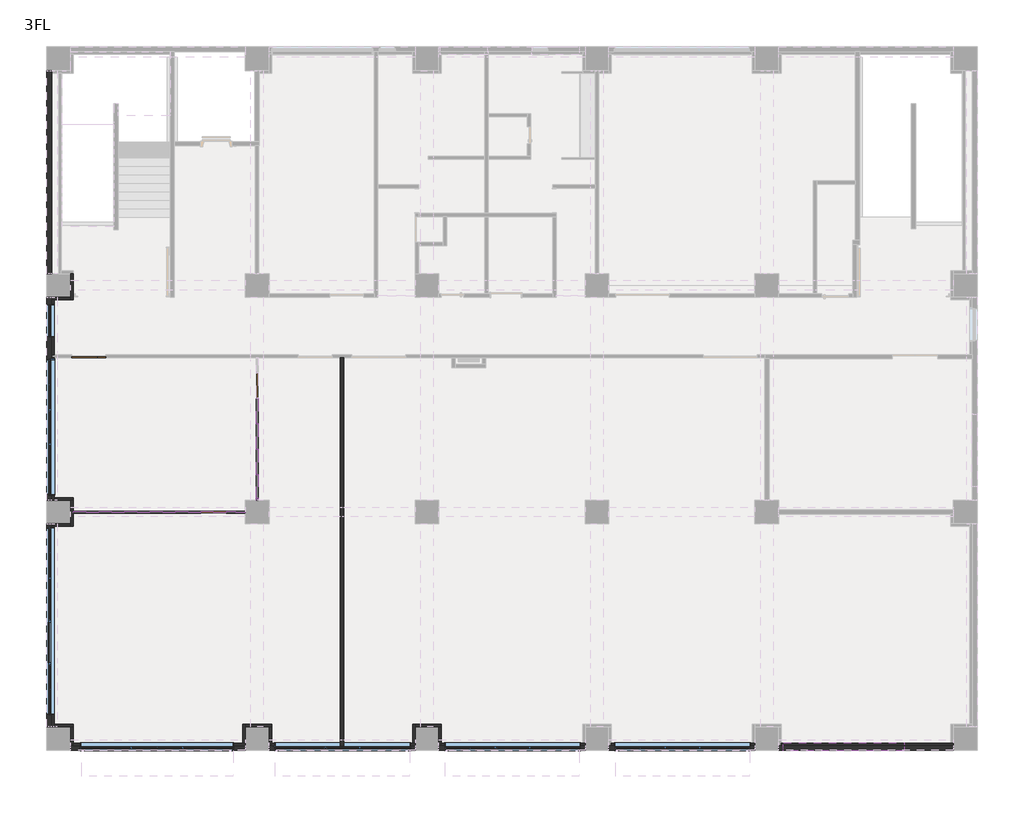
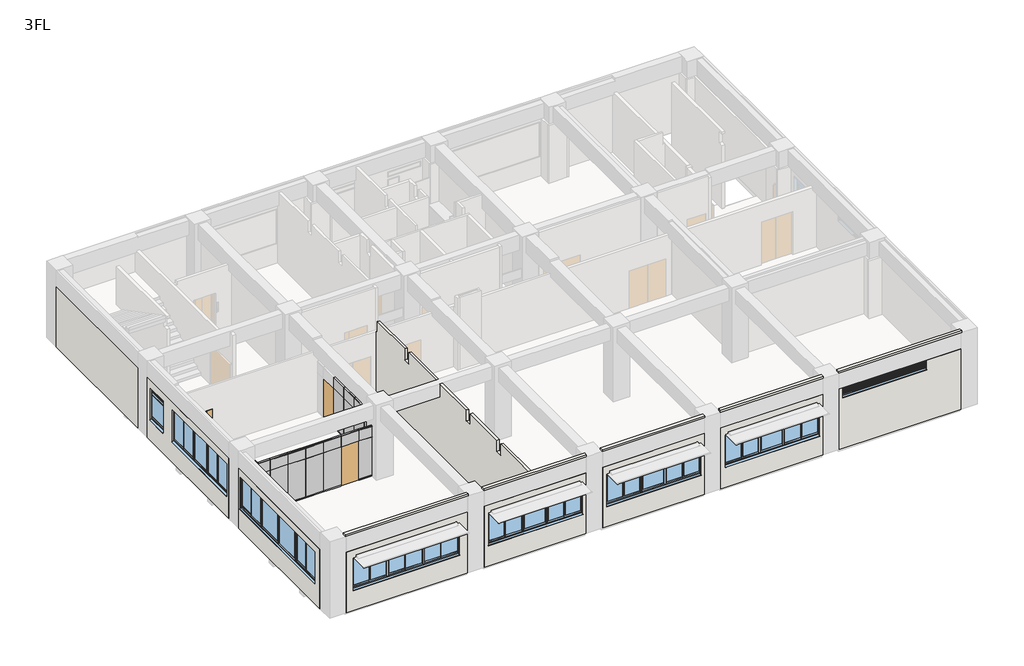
# One storey, part 1 of 6: 23 walls, 21 plates, 8 windows, 3 doors, 2 members.
"""IFC4 building model written with IfcOpenShell, lengths in millimetres."""

from ifc_helpers import new_model, si_unit, frame, origin, place, context, project, spatial, polyline, outline, extrude, faceted_brep, transform, mapped, element, save
from components import door_18b0804b, pt1_1e1990d0, pt7_9d475353, member_b4131282, member_8fee23aa, plate_bac15c8e, plate_f3b27fee, plate_b9e99dd6, plate_7cd72466, plate_84f50978, plate_53a28b3e, ag_02_89f51cda, aw1_ddd8473e, aw2_a9c71f60, aw3_4e8724e7, aw6a_a2a86f3e

model = new_model("IFC4")

# Units and contexts
model_context = context("Model", 3, world=origin())
ifc_project = project(units=[si_unit("LENGTHUNIT", "METRE", prefix="MILLI")], contexts=[model_context])

# Site, building, storey
site = spatial("IfcSite", under=ifc_project)
building = spatial("IfcBuilding", under=site)
storey = spatial("IfcBuildingStorey", under=building, Name="3FL", Elevation=8200.0)

# Doors
placement = place(None, origin())
door_shape = door_18b0804b(model_context)
element("IfcDoor", 1, ObjectType="営_親子扉 : LD2 1200*2000", at=placement, inside=storey, context=model_context, shape_type="MappedRepresentation", body=[
    mapped(door_shape, transform((1055.0, 13500.0, 8200.0), x_axis=(-1.0, 0.0, 0.0), y_axis=(0.0, -1.0, 0.0), z_axis=(0.0, 0.0, 1.0))),
])
pt1_shape = pt1_1e1990d0(model_context)
element("IfcDoor", 2, ObjectType="営_パーティションドア : PT6", at=placement, inside=storey, context=model_context, shape_type="MappedRepresentation", body=[
    mapped(pt1_shape, transform((5460.0000003, 8000.0, 8200.0), x_axis=(-1.0, 0.0, 0.0), y_axis=(0.0, -1.0, 0.0), z_axis=(0.0, 0.0, 1.0))),
])
pt7_shape = pt7_9d475353(model_context)
element("IfcDoor", 3, ObjectType="営_パーティションドア : PT7", at=placement, inside=storey, context=model_context, shape_type="MappedRepresentation", body=[
    mapped(pt7_shape, transform((7000.0, 12460.0000003, 8200.0), x_axis=(0.0, -1.0, 0.0), y_axis=(1.0, 0.0, 0.0), z_axis=(0.0, 0.0, 1.0))),
])

# Members
member_shape = member_b4131282(model_context)
element("IfcMember", 4, ObjectType="長方形マリオン : 70*70", at=placement, inside=storey, context=model_context, shape_type="MappedRepresentation", body=[
    mapped(member_shape, transform((7000.0, 8420.0, 10300.0), x_axis=(0.0, -1.0, 0.0), y_axis=(1.0, 0.0, 0.0), z_axis=(0.0, 0.0, 1.0))),
])
member_2_shape = member_8fee23aa(model_context)
element("IfcMember", 5, ObjectType="長方形マリオン : 70*70", at=placement, inside=storey, context=model_context, shape_type="MappedRepresentation", body=[
    mapped(member_2_shape, transform((7000.0, 8420.0, 10900.0), x_axis=(0.0, -1.0, 0.0), y_axis=(1.0, 0.0, 0.0), z_axis=(0.0, 0.0, 1.0))),
])

# Plates
plate_shape = plate_bac15c8e(model_context)
element("IfcPlate", 6, ObjectType="営_パーティションパネル_下部 : パーティションパネル_下部", at=placement, inside=storey, context=model_context, shape_type="MappedRepresentation", body=[
    mapped(plate_shape, transform((6245.0000002, 8000.0, 8200.0), x_axis=(1.0, 0.0, 0.0), y_axis=(0.0, 1.0, 0.0), z_axis=(0.0, 0.0, 1.0))),
])
plate_2_shape = plate_f3b27fee(model_context)
element("IfcPlate", 7, ObjectType="営_パーティションパネル_上部 : パーティションパネル_上部", at=placement, inside=storey, context=model_context, shape_type="MappedRepresentation", body=[
    mapped(plate_2_shape, transform((6245.0000002, 8000.0, 10300.0), x_axis=(1.0, 0.0, 0.0), y_axis=(0.0, 1.0, 0.0), z_axis=(0.0, 0.0, 1.0))),
])
plate_3_shape = plate_b9e99dd6(model_context)
element("IfcPlate", 8, ObjectType="営_パーティションパネル_下部 : パーティションパネル_下部", at=placement, inside=storey, context=model_context, shape_type="MappedRepresentation", body=[
    mapped(plate_3_shape, transform((7000.0, 8900.0000002, 8200.0), x_axis=(0.0, 1.0, 0.0), y_axis=(-1.0, 0.0, 0.0), z_axis=(0.0, 0.0, 1.0))),
])
plate_4_shape = plate_7cd72466(model_context)
element("IfcPlate", 9, ObjectType="営_パーティションパネル_上部 : パーティションパネル_上部", at=placement, inside=storey, context=model_context, shape_type="MappedRepresentation", body=[
    mapped(plate_4_shape, transform((7000.0, 8900.0000002, 10300.0), x_axis=(0.0, 1.0, 0.0), y_axis=(-1.0, 0.0, 0.0), z_axis=(0.0, 0.0, 1.0))),
])
plate_5_shape = plate_84f50978(model_context)
element("IfcPlate", 10, ObjectType="営_パーティションパネル_下部 : パーティションパネル_下部", at=placement, inside=storey, context=model_context, shape_type="MappedRepresentation", body=[
    mapped(plate_5_shape, transform((960.0000002, 8000.0, 8200.0), x_axis=(1.0, 0.0, 0.0), y_axis=(0.0, 1.0, 0.0), z_axis=(0.0, 0.0, 1.0))),
])
element("IfcPlate", 11, ObjectType="営_パーティションパネル_下部 : パーティションパネル_下部", at=placement, inside=storey, context=model_context, shape_type="MappedRepresentation", body=[
    mapped(plate_5_shape, transform((1860.0000003, 8000.0, 8200.0), x_axis=(1.0, 0.0, 0.0), y_axis=(0.0, 1.0, 0.0), z_axis=(0.0, 0.0, 1.0))),
])
element("IfcPlate", 12, ObjectType="営_パーティションパネル_下部 : パーティションパネル_下部", at=placement, inside=storey, context=model_context, shape_type="MappedRepresentation", body=[
    mapped(plate_5_shape, transform((2760.0000003, 8000.0, 8200.0), x_axis=(1.0, 0.0, 0.0), y_axis=(0.0, 1.0, 0.0), z_axis=(0.0, 0.0, 1.0))),
])
element("IfcPlate", 13, ObjectType="営_パーティションパネル_下部 : パーティションパネル_下部", at=placement, inside=storey, context=model_context, shape_type="MappedRepresentation", body=[
    mapped(plate_5_shape, transform((3660.0000003, 8000.0, 8200.0), x_axis=(1.0, 0.0, 0.0), y_axis=(0.0, 1.0, 0.0), z_axis=(0.0, 0.0, 1.0))),
])
element("IfcPlate", 14, ObjectType="営_パーティションパネル_下部 : パーティションパネル_下部", at=placement, inside=storey, context=model_context, shape_type="MappedRepresentation", body=[
    mapped(plate_5_shape, transform((4560.0000003, 8000.0, 8200.0), x_axis=(1.0, 0.0, 0.0), y_axis=(0.0, 1.0, 0.0), z_axis=(0.0, 0.0, 1.0))),
])
element("IfcPlate", 15, ObjectType="営_パーティションパネル_下部 : パーティションパネル_下部", at=placement, inside=storey, context=model_context, shape_type="MappedRepresentation", body=[
    mapped(plate_5_shape, transform((7000.0, 9760.0000003, 8200.0), x_axis=(0.0, 1.0, 0.0), y_axis=(-1.0, 0.0, 0.0), z_axis=(0.0, 0.0, 1.0))),
])
element("IfcPlate", 16, ObjectType="営_パーティションパネル_下部 : パーティションパネル_下部", at=placement, inside=storey, context=model_context, shape_type="MappedRepresentation", body=[
    mapped(plate_5_shape, transform((7000.0, 10660.0000003, 8200.0), x_axis=(0.0, 1.0, 0.0), y_axis=(-1.0, 0.0, 0.0), z_axis=(0.0, 0.0, 1.0))),
])
element("IfcPlate", 17, ObjectType="営_パーティションパネル_下部 : パーティションパネル_下部", at=placement, inside=storey, context=model_context, shape_type="MappedRepresentation", body=[
    mapped(plate_5_shape, transform((7000.0, 11560.0000003, 8200.0), x_axis=(0.0, 1.0, 0.0), y_axis=(-1.0, 0.0, 0.0), z_axis=(0.0, 0.0, 1.0))),
])
plate_6_shape = plate_53a28b3e(model_context)
element("IfcPlate", 18, ObjectType="営_パーティションパネル_上部 : パーティションパネル_上部", at=placement, inside=storey, context=model_context, shape_type="MappedRepresentation", body=[
    mapped(plate_6_shape, transform((960.0000002, 8000.0, 10300.0), x_axis=(1.0, 0.0, 0.0), y_axis=(0.0, 1.0, 0.0), z_axis=(0.0, 0.0, 1.0))),
])
element("IfcPlate", 19, ObjectType="営_パーティションパネル_上部 : パーティションパネル_上部", at=placement, inside=storey, context=model_context, shape_type="MappedRepresentation", body=[
    mapped(plate_6_shape, transform((1860.0000003, 8000.0, 10300.0), x_axis=(1.0, 0.0, 0.0), y_axis=(0.0, 1.0, 0.0), z_axis=(0.0, 0.0, 1.0))),
])
element("IfcPlate", 20, ObjectType="営_パーティションパネル_上部 : パーティションパネル_上部", at=placement, inside=storey, context=model_context, shape_type="MappedRepresentation", body=[
    mapped(plate_6_shape, transform((2760.0000003, 8000.0, 10300.0), x_axis=(1.0, 0.0, 0.0), y_axis=(0.0, 1.0, 0.0), z_axis=(0.0, 0.0, 1.0))),
])
element("IfcPlate", 21, ObjectType="営_パーティションパネル_上部 : パーティションパネル_上部", at=placement, inside=storey, context=model_context, shape_type="MappedRepresentation", body=[
    mapped(plate_6_shape, transform((3660.0000003, 8000.0, 10300.0), x_axis=(1.0, 0.0, 0.0), y_axis=(0.0, 1.0, 0.0), z_axis=(0.0, 0.0, 1.0))),
])
element("IfcPlate", 22, ObjectType="営_パーティションパネル_上部 : パーティションパネル_上部", at=placement, inside=storey, context=model_context, shape_type="MappedRepresentation", body=[
    mapped(plate_6_shape, transform((4560.0000003, 8000.0, 10300.0), x_axis=(1.0, 0.0, 0.0), y_axis=(0.0, 1.0, 0.0), z_axis=(0.0, 0.0, 1.0))),
])
element("IfcPlate", 23, ObjectType="営_パーティションパネル_上部 : パーティションパネル_上部", at=placement, inside=storey, context=model_context, shape_type="MappedRepresentation", body=[
    mapped(plate_6_shape, transform((5460.0000003, 8000.0, 10300.0), x_axis=(1.0, 0.0, 0.0), y_axis=(0.0, 1.0, 0.0), z_axis=(0.0, 0.0, 1.0))),
])
element("IfcPlate", 24, ObjectType="営_パーティションパネル_上部 : パーティションパネル_上部", at=placement, inside=storey, context=model_context, shape_type="MappedRepresentation", body=[
    mapped(plate_6_shape, transform((7000.0, 9760.0000003, 10300.0), x_axis=(0.0, 1.0, 0.0), y_axis=(-1.0, 0.0, 0.0), z_axis=(0.0, 0.0, 1.0))),
])
element("IfcPlate", 25, ObjectType="営_パーティションパネル_上部 : パーティションパネル_上部", at=placement, inside=storey, context=model_context, shape_type="MappedRepresentation", body=[
    mapped(plate_6_shape, transform((7000.0, 10660.0000003, 10300.0), x_axis=(0.0, 1.0, 0.0), y_axis=(-1.0, 0.0, 0.0), z_axis=(0.0, 0.0, 1.0))),
])
element("IfcPlate", 26, ObjectType="営_パーティションパネル_上部 : パーティションパネル_上部", at=placement, inside=storey, context=model_context, shape_type="MappedRepresentation", body=[
    mapped(plate_6_shape, transform((7000.0, 11560.0000003, 10300.0), x_axis=(0.0, 1.0, 0.0), y_axis=(-1.0, 0.0, 0.0), z_axis=(0.0, 0.0, 1.0))),
])

# Walls
element("IfcWall", 27, ObjectType="(外壁)RC150+20", at=placement, inside=storey, context=model_context, shape_type="Brep", body=[
    faceted_brep([(-250.0, 7580.0, 11300.0), (-250.0, 420.0, 11300.0), (-250.0, 420.0, 8100.0), (-250.0, 7580.0, 8100.0), (-250.0, 7465.0, 10920.0), (-250.0, 7465.0, 9265.0), (-250.0, 835.0, 9265.0), (-250.0, 835.0, 10920.0), (-420.0, 420.0, 11300.0), (-420.0, 7580.0, 11300.0), (-420.0, 7580.0, 8100.0), (-420.0, 420.0, 8100.0), (-420.0, 865.0, 9175.0), (-420.0, 7435.0, 9175.0), (-420.0, 7435.0, 10895.0), (-420.0, 865.0, 10895.0), (-335.0, 420.0, 8100.0), (-335.0, 7580.0, 8100.0), (-290.0, 7465.0, 10920.0), (-290.0, 7465.0, 9265.0), (-290.0, 835.0, 9265.0), (-290.0, 835.0, 10920.0), (-290.0, 7455.0, 9265.0), (-290.0, 845.0, 9265.0), (-290.0, 845.0, 10915.0), (-290.0, 7455.0, 10915.0), (-360.0, 7455.0, 10915.0), (-360.0, 7455.0, 9184.2307692), (-290.0, 7455.0, 9195.0), (-290.0, 845.0, 9195.0), (-360.0, 845.0, 9184.2307692), (-360.0, 845.0, 10915.0), (-360.0, 7435.0, 9184.2307692), (-360.0, 865.0, 9184.2307692), (-360.0, 865.0, 10895.0), (-360.0, 7435.0, 10895.0)], [[[0, 1, 2, 3], [4, 5, 6, 7]], [[8, 9, 10, 11], [12, 13, 14, 15]], [[2, 16, 11, 10, 17, 3]], [[18, 19, 5, 4]], [[20, 21, 7, 6]], [[5, 19, 22, 23, 20, 6]], [[19, 18, 21, 20, 23, 24, 25, 22]], [[18, 4, 7, 21]], [[22, 25, 26, 27, 28]], [[24, 23, 29, 30, 31]], [[28, 27, 32, 13, 12, 33, 30, 29]], [[27, 26, 31, 30, 33, 34, 35, 32]], [[25, 24, 31, 26]], [[23, 22, 28, 29]], [[13, 32, 35, 14]], [[33, 12, 15, 34]], [[35, 34, 15, 14]], [[11, 16, 2, 1, 8]], [[3, 17, 10, 9, 0]], [[1, 0, 9, 8]]]),
    faceted_brep([(-250.0, 15580.0, 11300.0), (-250.0, 8420.0, 11300.0), (-250.0, 8420.0, 8100.0), (-250.0, 15580.0, 8100.0), (-250.0, 13410.0, 10920.0), (-250.0, 13410.0, 9265.0), (-250.0, 8590.0, 9265.0), (-250.0, 8590.0, 10920.0), (-250.0, 15345.0, 10920.0), (-250.0, 15345.0, 9265.0), (-250.0, 14165.0, 9265.0), (-250.0, 14165.0, 10920.0), (-420.0, 8420.0, 11300.0), (-420.0, 15580.0, 11300.0), (-420.0, 15580.0, 8100.0), (-420.0, 8420.0, 8100.0), (-420.0, 8620.0, 9175.0), (-420.0, 13380.0, 9175.0), (-420.0, 13380.0, 10895.0), (-420.0, 8620.0, 10895.0), (-420.0, 14195.0, 9175.0), (-420.0, 15315.0, 9175.0), (-420.0, 15315.0, 10895.0), (-420.0, 14195.0, 10895.0), (-335.0, 8420.0, 8100.0), (-325.0, 15580.0, 8100.0), (-290.0, 13410.0, 10920.0), (-290.0, 13410.0, 9265.0), (-290.0, 8590.0, 9265.0), (-290.0, 8590.0, 10920.0), (-290.0, 13400.0, 9265.0), (-290.0, 8600.0, 9265.0), (-290.0, 8600.0, 10915.0), (-290.0, 13400.0, 10915.0), (-360.0, 13400.0, 10915.0), (-360.0, 13400.0, 9184.2307692), (-290.0, 13400.0, 9195.0), (-290.0, 8600.0, 9195.0), (-360.0, 8600.0, 9184.2307692), (-360.0, 8600.0, 10915.0), (-360.0, 13380.0, 9184.2307692), (-360.0, 8620.0, 9184.2307692), (-360.0, 8620.0, 10895.0), (-360.0, 13380.0, 10895.0), (-290.0, 15345.0, 10920.0), (-290.0, 15345.0, 9265.0), (-290.0, 14165.0, 9265.0), (-290.0, 14165.0, 10920.0), (-290.0, 15335.0, 9265.0), (-290.0, 14175.0, 9265.0), (-290.0, 14175.0, 10915.0), (-290.0, 15335.0, 10915.0), (-360.0, 15335.0, 10915.0), (-360.0, 15335.0, 9184.2307692), (-290.0, 15335.0, 9195.0), (-290.0, 14175.0, 9195.0), (-360.0, 14175.0, 9184.2307692), (-360.0, 14175.0, 10915.0), (-360.0, 15315.0, 9184.2307692), (-360.0, 14195.0, 9184.2307692), (-360.0, 14195.0, 10895.0), (-360.0, 15315.0, 10895.0)], [[[0, 1, 2, 3], [4, 5, 6, 7], [8, 9, 10, 11]], [[12, 13, 14, 15], [16, 17, 18, 19], [20, 21, 22, 23]], [[2, 24, 15, 14, 25, 3]], [[26, 27, 5, 4]], [[28, 29, 7, 6]], [[5, 27, 30, 31, 28, 6]], [[27, 26, 29, 28, 31, 32, 33, 30]], [[26, 4, 7, 29]], [[30, 33, 34, 35, 36]], [[32, 31, 37, 38, 39]], [[36, 35, 40, 17, 16, 41, 38, 37]], [[35, 34, 39, 38, 41, 42, 43, 40]], [[33, 32, 39, 34]], [[31, 30, 36, 37]], [[17, 40, 43, 18]], [[41, 16, 19, 42]], [[43, 42, 19, 18]], [[44, 45, 9, 8]], [[46, 47, 11, 10]], [[9, 45, 48, 49, 46, 10]], [[45, 44, 47, 46, 49, 50, 51, 48]], [[44, 8, 11, 47]], [[48, 51, 52, 53, 54]], [[50, 49, 55, 56, 57]], [[54, 53, 58, 21, 20, 59, 56, 55]], [[53, 52, 57, 56, 59, 60, 61, 58]], [[51, 50, 57, 52]], [[49, 48, 54, 55]], [[21, 58, 61, 22]], [[59, 20, 23, 60]], [[61, 60, 23, 22]], [[15, 24, 2, 1, 12]], [[3, 25, 14, 13, 0]], [[1, 0, 13, 12]]]),
    faceted_brep([(-250.0, 16420.0, 8100.0), (-250.0, 23580.0, 8100.0), (-250.0, 23580.0, 11300.0), (-250.0, 16420.0, 11300.0), (-420.0, 23580.0, 8100.0), (-420.0, 16420.0, 8100.0), (-420.0, 16420.0, 11300.0), (-420.0, 23580.0, 11300.0), (-325.0, 16420.0, 8100.0), (-325.0, 23580.0, 8100.0)], [[[0, 1, 2, 3]], [[4, 5, 6, 7]], [[0, 8, 5, 4, 9, 1]], [[5, 8, 0, 3, 6]], [[1, 9, 4, 7, 2]], [[3, 2, 7, 6]]]),
])
element("IfcWall", 28, ObjectType="(外壁)RC150+20", at=placement, inside=storey, context=model_context, shape_type="Brep", body=[
    faceted_brep([(420.0, -250.0, 11350.0), (6580.0, -250.0, 11350.0), (6580.0, -250.0, 8100.0), (420.0, -250.0, 8100.0), (752.5, -250.0, 10920.0), (752.5, -250.0, 9265.0), (6177.5, -250.0, 9265.0), (6177.5, -250.0, 10920.0), (6580.0, -420.0, 11350.0), (420.0, -420.0, 11350.0), (420.0, -420.0, 8100.0), (6580.0, -420.0, 8100.0), (6147.5, -420.0, 9175.0), (782.5, -420.0, 9175.0), (782.5, -420.0, 10895.0), (6147.5, -420.0, 10895.0), (6580.0, -325.0, 8100.0), (420.0, -325.0, 8100.0), (752.5, -290.0, 10920.0), (752.5, -290.0, 9265.0), (6177.5, -290.0, 9265.0), (6177.5, -290.0, 10920.0), (762.5, -290.0, 9265.0), (6167.5, -290.0, 9265.0), (6167.5, -290.0, 10915.0), (762.5, -290.0, 10915.0), (762.5, -360.0, 10915.0), (762.5, -360.0, 9184.2307692), (762.5, -290.0, 9195.0), (6167.5, -290.0, 9195.0), (6167.5, -360.0, 9184.2307692), (6167.5, -360.0, 10915.0), (782.5, -360.0, 9184.2307692), (6147.5, -360.0, 9184.2307692), (6147.5, -360.0, 10895.0), (782.5, -360.0, 10895.0)], [[[0, 1, 2, 3], [4, 5, 6, 7]], [[8, 9, 10, 11], [12, 13, 14, 15]], [[2, 16, 11, 10, 17, 3]], [[18, 19, 5, 4]], [[20, 21, 7, 6]], [[5, 19, 22, 23, 20, 6]], [[19, 18, 21, 20, 23, 24, 25, 22]], [[18, 4, 7, 21]], [[22, 25, 26, 27, 28]], [[24, 23, 29, 30, 31]], [[28, 27, 32, 13, 12, 33, 30, 29]], [[27, 26, 31, 30, 33, 34, 35, 32]], [[25, 24, 31, 26]], [[23, 22, 28, 29]], [[13, 32, 35, 14]], [[33, 12, 15, 34]], [[35, 34, 15, 14]], [[11, 16, 2, 1, 8]], [[3, 17, 10, 9, 0]], [[1, 0, 9, 8]]]),
    faceted_brep([(7420.0, -250.0, 11350.0), (12580.0, -250.0, 11350.0), (12580.0, -250.0, 8100.0), (7420.0, -250.0, 8100.0), (7610.0, -250.0, 10920.0), (7610.0, -250.0, 9265.0), (12430.0, -250.0, 9265.0), (12430.0, -250.0, 10920.0), (12580.0, -420.0, 11350.0), (7420.0, -420.0, 11350.0), (7420.0, -420.0, 8100.0), (12580.0, -420.0, 8100.0), (12400.0, -420.0, 9175.0), (7640.0, -420.0, 9175.0), (7640.0, -420.0, 10895.0), (12400.0, -420.0, 10895.0), (7420.0, -325.0, 8100.0), (12580.0, -325.0, 8100.0), (7610.0, -290.0, 10920.0), (7610.0, -290.0, 9265.0), (12430.0, -290.0, 9265.0), (12430.0, -290.0, 10920.0), (7620.0, -290.0, 9265.0), (12420.0, -290.0, 9265.0), (12420.0, -290.0, 10915.0), (7620.0, -290.0, 10915.0), (7620.0, -360.0, 10915.0), (7620.0, -360.0, 9184.2307692), (7620.0, -290.0, 9195.0), (12420.0, -290.0, 9195.0), (12420.0, -360.0, 9184.2307692), (12420.0, -360.0, 10915.0), (7640.0, -360.0, 9184.2307692), (12400.0, -360.0, 9184.2307692), (12400.0, -360.0, 10895.0), (7640.0, -360.0, 10895.0)], [[[0, 1, 2, 3], [4, 5, 6, 7]], [[8, 9, 10, 11], [12, 13, 14, 15]], [[10, 16, 3, 2, 17, 11]], [[3, 16, 10, 9, 0]], [[11, 17, 2, 1, 8]], [[1, 0, 9, 8]], [[18, 19, 5, 4]], [[20, 21, 7, 6]], [[5, 19, 22, 23, 20, 6]], [[19, 18, 21, 20, 23, 24, 25, 22]], [[18, 4, 7, 21]], [[22, 25, 26, 27, 28]], [[24, 23, 29, 30, 31]], [[28, 27, 32, 13, 12, 33, 30, 29]], [[27, 26, 31, 30, 33, 34, 35, 32]], [[25, 24, 31, 26]], [[23, 22, 28, 29]], [[13, 32, 35, 14]], [[33, 12, 15, 34]], [[35, 34, 15, 14]]]),
    faceted_brep([(13420.0, -250.0, 11350.0), (18580.0, -250.0, 11350.0), (18580.0, -250.0, 8100.0), (13420.0, -250.0, 8100.0), (13610.0, -250.0, 10920.0), (13610.0, -250.0, 9265.0), (18430.0, -250.0, 9265.0), (18430.0, -250.0, 10920.0), (18580.0, -420.0, 11350.0), (13420.0, -420.0, 11350.0), (13420.0, -420.0, 8100.0), (18580.0, -420.0, 8100.0), (18400.0, -420.0, 9175.0), (13640.0, -420.0, 9175.0), (13640.0, -420.0, 10895.0), (18400.0, -420.0, 10895.0), (13420.0, -325.0, 8100.0), (18580.0, -325.0, 8100.0), (13610.0, -290.0, 10920.0), (13610.0, -290.0, 9265.0), (18430.0, -290.0, 9265.0), (18430.0, -290.0, 10920.0), (13620.0, -290.0, 9265.0), (18420.0, -290.0, 9265.0), (18420.0, -290.0, 10915.0), (13620.0, -290.0, 10915.0), (13620.0, -360.0, 10915.0), (13620.0, -360.0, 9184.2307692), (13620.0, -290.0, 9195.0), (18420.0, -290.0, 9195.0), (18420.0, -360.0, 9184.2307692), (18420.0, -360.0, 10915.0), (13640.0, -360.0, 9184.2307692), (18400.0, -360.0, 9184.2307692), (18400.0, -360.0, 10895.0), (13640.0, -360.0, 10895.0)], [[[0, 1, 2, 3], [4, 5, 6, 7]], [[8, 9, 10, 11], [12, 13, 14, 15]], [[10, 16, 3, 2, 17, 11]], [[3, 16, 10, 9, 0]], [[11, 17, 2, 1, 8]], [[1, 0, 9, 8]], [[18, 19, 5, 4]], [[20, 21, 7, 6]], [[5, 19, 22, 23, 20, 6]], [[19, 18, 21, 20, 23, 24, 25, 22]], [[18, 4, 7, 21]], [[22, 25, 26, 27, 28]], [[24, 23, 29, 30, 31]], [[28, 27, 32, 13, 12, 33, 30, 29]], [[27, 26, 31, 30, 33, 34, 35, 32]], [[25, 24, 31, 26]], [[23, 22, 28, 29]], [[13, 32, 35, 14]], [[33, 12, 15, 34]], [[35, 34, 15, 14]]]),
    faceted_brep([(19420.0, -250.0, 11350.0), (24580.0, -250.0, 11350.0), (24580.0, -250.0, 8100.0), (19420.0, -250.0, 8100.0), (19610.0, -250.0, 10920.0), (19610.0, -250.0, 9265.0), (24430.0, -250.0, 9265.0), (24430.0, -250.0, 10920.0), (24580.0, -420.0, 11350.0), (19420.0, -420.0, 11350.0), (19420.0, -420.0, 8100.0), (24580.0, -420.0, 8100.0), (24400.0, -420.0, 9175.0), (19640.0, -420.0, 9175.0), (19640.0, -420.0, 10895.0), (24400.0, -420.0, 10895.0), (19420.0, -325.0, 8100.0), (24580.0, -325.0, 8100.0), (19610.0, -290.0, 10920.0), (19610.0, -290.0, 9265.0), (24430.0, -290.0, 9265.0), (24430.0, -290.0, 10920.0), (19620.0, -290.0, 9265.0), (24420.0, -290.0, 9265.0), (24420.0, -290.0, 10915.0), (19620.0, -290.0, 10915.0), (19620.0, -360.0, 10915.0), (19620.0, -360.0, 9184.2307692), (19620.0, -290.0, 9195.0), (24420.0, -290.0, 9195.0), (24420.0, -360.0, 9184.2307692), (24420.0, -360.0, 10915.0), (19640.0, -360.0, 9184.2307692), (24400.0, -360.0, 9184.2307692), (24400.0, -360.0, 10895.0), (19640.0, -360.0, 10895.0)], [[[0, 1, 2, 3], [4, 5, 6, 7]], [[8, 9, 10, 11], [12, 13, 14, 15]], [[10, 16, 3, 2, 17, 11]], [[18, 19, 5, 4]], [[20, 21, 7, 6]], [[5, 19, 22, 23, 20, 6]], [[19, 18, 21, 20, 23, 24, 25, 22]], [[18, 4, 7, 21]], [[22, 25, 26, 27, 28]], [[24, 23, 29, 30, 31]], [[28, 27, 32, 13, 12, 33, 30, 29]], [[27, 26, 31, 30, 33, 34, 35, 32]], [[25, 24, 31, 26]], [[23, 22, 28, 29]], [[13, 32, 35, 14]], [[33, 12, 15, 34]], [[35, 34, 15, 14]], [[3, 16, 10, 9, 0]], [[11, 17, 2, 1, 8]], [[1, 0, 9, 8]]]),
    faceted_brep([(25420.0, -250.0, 11350.0), (31580.0, -250.0, 11350.0), (31580.0, -250.0, 8100.0), (25420.0, -250.0, 8100.0), (25572.7, -250.0, 11335.0), (25572.7, -250.0, 10915.0), (29852.7, -250.0, 10915.0), (29852.7, -250.0, 11335.0), (31580.0, -420.0, 11350.0), (25420.0, -420.0, 11350.0), (25420.0, -420.0, 8100.0), (31580.0, -420.0, 8100.0), (29822.7, -420.0, 10825.0), (25602.7, -420.0, 10825.0), (25602.7, -420.0, 11310.0), (29822.7, -420.0, 11310.0), (25420.0, -325.0, 8100.0), (31580.0, -325.0, 8100.0), (25572.7, -290.0, 11335.0), (25572.7, -290.0, 10915.0), (29852.7, -290.0, 10915.0), (29852.7, -290.0, 11335.0), (25582.7, -290.0, 10915.0), (29842.7, -290.0, 10915.0), (29842.7, -290.0, 11330.0), (25582.7, -290.0, 11330.0), (25582.7, -360.0, 11330.0), (25582.7, -360.0, 10834.2307692), (25582.7, -290.0, 10845.0), (29842.7, -290.0, 10845.0), (29842.7, -360.0, 10834.2307692), (29842.7, -360.0, 11330.0), (25602.7, -360.0, 10834.2307692), (29822.7, -360.0, 10834.2307692), (29822.7, -360.0, 11310.0), (25602.7, -360.0, 11310.0)], [[[0, 1, 2, 3], [4, 5, 6, 7]], [[8, 9, 10, 11], [12, 13, 14, 15]], [[10, 16, 3, 2, 17, 11]], [[3, 16, 10, 9, 0]], [[11, 17, 2, 1, 8]], [[1, 0, 9, 8]], [[18, 19, 5, 4]], [[20, 21, 7, 6]], [[5, 19, 22, 23, 20, 6]], [[19, 18, 21, 20, 23, 24, 25, 22]], [[18, 4, 7, 21]], [[22, 25, 26, 27, 28]], [[24, 23, 29, 30, 31]], [[28, 27, 32, 13, 12, 33, 30, 29]], [[27, 26, 31, 30, 33, 34, 35, 32]], [[25, 24, 31, 26]], [[23, 22, 28, 29]], [[13, 32, 35, 14]], [[33, 12, 15, 34]], [[35, 34, 15, 14]]]),
    faceted_brep([(7395.0, -250.0, 12200.0), (7395.0, -250.0, 12300.0), (12605.0, -250.0, 12300.0), (12605.0, -250.0, 12200.0), (7395.0, -420.0, 12300.0), (7395.0, -420.0, 12200.0), (7420.0, -420.0, 12200.0), (12580.0, -420.0, 12200.0), (12605.0, -420.0, 12200.0), (12605.0, -420.0, 12300.0), (7395.0, -325.0, 12200.0), (12605.0, -325.0, 12200.0)], [[[0, 1, 2, 3]], [[4, 5, 6, 7, 8, 9]], [[1, 4, 9, 2]], [[5, 10, 0, 3, 11, 8, 7, 6]], [[1, 0, 10, 5, 4]], [[3, 2, 9, 8, 11]]]),
    faceted_brep([(6605.0, -250.0, 12300.0), (6605.0, -250.0, 12200.0), (370.0, -250.0, 12200.0), (370.0, -250.0, 12300.0), (6605.0, -420.0, 12200.0), (6605.0, -420.0, 12300.0), (370.0, -420.0, 12300.0), (370.0, -420.0, 12200.0), (420.0, -420.0, 12200.0), (6580.0, -420.0, 12200.0), (6605.0, -325.0, 12200.0)], [[[0, 1, 2, 3]], [[4, 5, 6, 7, 8, 9]], [[5, 0, 3, 6]], [[1, 10, 4, 9, 8, 7, 2]], [[1, 0, 5, 4, 10]], [[3, 2, 7, 6]]]),
    faceted_brep([(13395.0, -250.0, 12200.0), (13395.0, -250.0, 12300.0), (18605.0, -250.0, 12300.0), (18605.0, -250.0, 12200.0), (13395.0, -420.0, 12300.0), (13395.0, -420.0, 12200.0), (13420.0, -420.0, 12200.0), (18580.0, -420.0, 12200.0), (18605.0, -420.0, 12200.0), (18605.0, -420.0, 12300.0), (13395.0, -325.0, 12200.0), (18605.0, -325.0, 12200.0)], [[[0, 1, 2, 3]], [[4, 5, 6, 7, 8, 9]], [[1, 4, 9, 2]], [[5, 10, 0, 3, 11, 8, 7, 6]], [[1, 0, 10, 5, 4]], [[3, 2, 9, 8, 11]]]),
    faceted_brep([(19395.0, -250.0, 12200.0), (19395.0, -250.0, 12300.0), (24605.0, -250.0, 12300.0), (24605.0, -250.0, 12200.0), (19395.0, -420.0, 12300.0), (19395.0, -420.0, 12200.0), (19420.0, -420.0, 12200.0), (24580.0, -420.0, 12200.0), (24605.0, -420.0, 12200.0), (24605.0, -420.0, 12300.0), (19395.0, -325.0, 12200.0), (24605.0, -325.0, 12200.0)], [[[0, 1, 2, 3]], [[4, 5, 6, 7, 8, 9]], [[1, 4, 9, 2]], [[5, 10, 0, 3, 11, 8, 7, 6]], [[1, 0, 10, 5, 4]], [[3, 2, 9, 8, 11]]]),
    faceted_brep([(25395.0, -250.0, 12200.0), (25395.0, -250.0, 12300.0), (31630.0, -250.0, 12300.0), (31630.0, -250.0, 12200.0), (25395.0, -420.0, 12300.0), (25395.0, -420.0, 12200.0), (25420.0, -420.0, 12200.0), (31580.0, -420.0, 12200.0), (31630.0, -420.0, 12200.0), (31630.0, -420.0, 12300.0), (25395.0, -325.0, 12200.0)], [[[0, 1, 2, 3]], [[4, 5, 6, 7, 8, 9]], [[1, 4, 9, 2]], [[5, 10, 0, 3, 8, 7, 6]], [[1, 0, 10, 5, 4]], [[3, 2, 9, 8]]]),
])
element("IfcWall", 29, ObjectType="(内壁)W3", at=placement, inside=storey, context=model_context, shape_type="SweptSolid", body=[
    extrude(outline(polyline([(13440.0, 8200.0), (-250.0, 8200.0), (-250.0, 11350.0), (-50.0, 11350.0), (-50.0, 12050.0), (2485.0, 12050.0), (2485.0, 11450.0), (2835.0, 11450.0), (2835.0, 12050.0), (5155.0, 12050.0), (5155.0, 11450.0), (5505.0, 11450.0), (5505.0, 12050.0), (7825.0, 12050.0), (7825.0, 11350.0), (8175.0, 11350.0), (8175.0, 12050.0), (10575.0, 12050.0), (10575.0, 11450.0), (10925.0, 11450.0), (10925.0, 12050.0), (13325.0, 12050.0), (13325.0, 11450.0), (13440.0, 11450.0), (13440.0, 8200.0)])), frame((9940.0, 0.0, 0.0), z_axis=(1.0, 0.0, 0.0), x_axis=(0.0, 1.0, 0.0)), (0.0, 0.0, 1.0), 120.0),
])
element("IfcWall", 30, ObjectType="(内壁)W5", at=placement, inside=storey, context=model_context, shape_type="Brep", body=[
    faceted_brep([(420.0, 16420.0, 8200.0), (420.0, 15580.0, 8200.0), (420.0, 15490.0, 8200.0), (420.0, 15490.0, 11300.0), (420.0, 15580.0, 11300.0), (420.0, 16420.0, 11300.0), (510.0, 16420.0, 8200.0), (510.0, 16420.0, 11300.0), (510.0, 15490.0, 11300.0), (510.0, 15490.0, 8200.0)], [[[0, 1, 2, 3, 4, 5]], [[6, 7, 8, 9]], [[2, 1, 0, 6, 9]], [[5, 4, 3, 8, 7]], [[0, 5, 7, 6]], [[3, 2, 9, 8]]]),
])
element("IfcWall", 31, ObjectType="(内壁)W5", at=placement, inside=storey, context=model_context, shape_type="Brep", body=[
    faceted_brep([(420.0, 15580.0, 8200.0), (-250.0, 15580.0, 8200.0), (-250.0, 15580.0, 11300.0), (420.0, 15580.0, 11300.0), (420.0, 15490.0, 8200.0), (420.0, 15490.0, 11300.0), (-160.0, 15490.0, 11300.0), (-250.0, 15490.0, 11300.0), (-250.0, 15490.0, 8200.0)], [[[0, 1, 2, 3]], [[4, 5, 6, 7, 8]], [[1, 0, 4, 8]], [[3, 2, 7, 6, 5]], [[0, 3, 5, 4]], [[2, 1, 8, 7]]]),
])
element("IfcWall", 32, ObjectType="(内壁)W5", at=placement, inside=storey, context=model_context, shape_type="Brep", body=[
    faceted_brep([(-250.0, 15490.0, 8190.0), (-250.0, 8420.0, 8190.0), (-250.0, 8420.0, 11300.0), (-250.0, 13440.0, 11300.0), (-250.0, 13440.0, 8200.0), (-250.0, 13560.0, 8200.0), (-250.0, 13560.0, 11300.0), (-250.0, 15490.0, 11300.0), (-250.0, 15490.0, 8200.0), (-250.0, 15345.0, 9265.0), (-250.0, 15345.0, 10920.0), (-250.0, 14165.0, 10920.0), (-250.0, 14165.0, 9265.0), (-250.0, 13410.0, 9265.0), (-250.0, 13410.0, 10920.0), (-250.0, 8590.0, 10920.0), (-250.0, 8590.0, 9265.0), (-160.0, 8420.0, 8190.0), (-160.0, 15490.0, 8190.0), (-160.0, 15490.0, 11300.0), (-160.0, 13560.0, 11300.0), (-160.0, 13560.0, 8200.0), (-160.0, 13440.0, 8200.0), (-160.0, 13440.0, 11300.0), (-160.0, 8510.0, 11300.0), (-160.0, 8420.0, 11300.0), (-160.0, 15345.0, 10920.0), (-160.0, 15345.0, 9265.0), (-160.0, 14165.0, 9265.0), (-160.0, 14165.0, 10920.0), (-160.0, 13410.0, 10920.0), (-160.0, 13410.0, 9265.0), (-160.0, 8590.0, 9265.0), (-160.0, 8590.0, 10920.0)], [[[0, 1, 2, 3, 4, 5, 6, 7, 8], [9, 10, 11, 12], [13, 14, 15, 16]], [[17, 18, 19, 20, 21, 22, 23, 24, 25], [26, 27, 28, 29], [30, 31, 32, 33]], [[1, 0, 18, 17]], [[19, 7, 6, 20]], [[2, 25, 24, 23, 3]], [[0, 8, 7, 19, 18]], [[2, 1, 17, 25]], [[26, 10, 9, 27]], [[28, 12, 11, 29]], [[27, 9, 12, 28]], [[10, 26, 29, 11]], [[22, 4, 3, 23]], [[5, 21, 20, 6]], [[4, 22, 21, 5]], [[30, 14, 13, 31]], [[32, 16, 15, 33]], [[16, 32, 31, 13]], [[33, 15, 14, 30]]]),
])
element("IfcWall", 33, ObjectType="(内壁)W5", at=placement, inside=storey, context=model_context, shape_type="Brep", body=[
    faceted_brep([(-160.0, 8420.0, 8100.0), (420.0, 8420.0, 8100.0), (510.0, 8420.0, 8100.0), (510.0, 8420.0, 11300.0), (420.0, 8420.0, 11300.0), (-160.0, 8420.0, 11300.0), (-160.0, 8420.0, 8190.0), (-160.0, 8510.0, 8100.0), (-160.0, 8510.0, 11300.0), (510.0, 8510.0, 11300.0), (510.0, 8510.0, 8100.0)], [[[0, 1, 2, 3, 4, 5, 6]], [[7, 8, 9, 10]], [[2, 1, 0, 7, 10]], [[5, 4, 3, 9, 8]], [[0, 6, 5, 8, 7]], [[3, 2, 10, 9]]]),
])
element("IfcWall", 34, ObjectType="(内壁)W5", at=placement, inside=storey, context=model_context, shape_type="Brep", body=[
    faceted_brep([(420.0, 8420.0, 8100.0), (420.0, 7580.0, 8100.0), (420.0, 7490.0, 8100.0), (420.0, 7490.0, 11300.0), (420.0, 7580.0, 11300.0), (420.0, 8420.0, 11300.0), (510.0, 8420.0, 8100.0), (510.0, 8420.0, 11300.0), (510.0, 7490.0, 11300.0), (510.0, 7490.0, 8100.0)], [[[0, 1, 2, 3, 4, 5]], [[6, 7, 8, 9]], [[2, 1, 0, 6, 9]], [[5, 4, 3, 8, 7]], [[0, 5, 7, 6]], [[3, 2, 9, 8]]]),
])
element("IfcWall", 35, ObjectType="(内壁)W5", at=placement, inside=storey, context=model_context, shape_type="Brep", body=[
    faceted_brep([(420.0, 7580.0, 8100.0), (-250.0, 7580.0, 8100.0), (-250.0, 7580.0, 11300.0), (420.0, 7580.0, 11300.0), (420.0, 7490.0, 8100.0), (420.0, 7490.0, 11300.0), (-250.0, 7490.0, 11300.0), (-250.0, 7490.0, 8100.0), (-160.0, 7490.0, 8100.0)], [[[0, 1, 2, 3]], [[4, 5, 6, 7, 8]], [[1, 0, 4, 8, 7]], [[3, 2, 6, 5]], [[0, 3, 5, 4]], [[2, 1, 7, 6]]]),
])
element("IfcWall", 36, ObjectType="(内壁)W5", at=placement, inside=storey, context=model_context, shape_type="Brep", body=[
    faceted_brep([(-250.0, 7490.0, 8100.0), (-250.0, 420.0, 8100.0), (-250.0, 420.0, 11300.0), (-250.0, 7490.0, 11300.0), (-250.0, 7465.0, 9265.0), (-250.0, 7465.0, 10920.0), (-250.0, 835.0, 10920.0), (-250.0, 835.0, 9265.0), (-160.0, 420.0, 8100.0), (-160.0, 510.0, 8100.0), (-160.0, 7490.0, 8100.0), (-160.0, 7490.0, 11300.0), (-160.0, 510.0, 11300.0), (-160.0, 420.0, 11300.0), (-160.0, 7465.0, 10920.0), (-160.0, 7465.0, 9265.0), (-160.0, 835.0, 9265.0), (-160.0, 835.0, 10920.0)], [[[0, 1, 2, 3], [4, 5, 6, 7]], [[8, 9, 10, 11, 12, 13], [14, 15, 16, 17]], [[1, 0, 10, 9, 8]], [[10, 0, 3, 11]], [[1, 8, 13, 2]], [[14, 5, 4, 15]], [[16, 7, 6, 17]], [[15, 4, 7, 16]], [[5, 14, 17, 6]], [[3, 2, 13, 12, 11]]]),
])
element("IfcWall", 37, ObjectType="(内壁)W5", at=placement, inside=storey, context=model_context, shape_type="Brep", body=[
    faceted_brep([(-160.0, 420.0, 8100.0), (420.0, 420.0, 8100.0), (510.0, 420.0, 8100.0), (510.0, 420.0, 11300.0), (420.0, 420.0, 11300.0), (-160.0, 420.0, 11300.0), (-160.0, 510.0, 8100.0), (-160.0, 510.0, 11300.0), (510.0, 510.0, 11300.0), (510.0, 510.0, 8100.0)], [[[0, 1, 2, 3, 4, 5]], [[6, 7, 8, 9]], [[2, 1, 0, 6, 9]], [[5, 4, 3, 8, 7]], [[0, 5, 7, 6]], [[3, 2, 9, 8]]]),
])
element("IfcWall", 38, ObjectType="(内壁)W5", at=placement, inside=storey, context=model_context, shape_type="Brep", body=[
    faceted_brep([(420.0, 420.0, 8100.0), (420.0, -250.0, 8100.0), (420.0, -250.0, 11300.0), (420.0, 420.0, 11300.0), (510.0, 420.0, 8100.0), (510.0, 420.0, 11300.0), (510.0, -160.0, 11300.0), (510.0, -250.0, 11300.0), (510.0, -250.0, 8100.0), (510.0, -160.0, 8100.0)], [[[0, 1, 2, 3]], [[4, 5, 6, 7, 8, 9]], [[1, 0, 4, 9, 8]], [[3, 2, 7, 6, 5]], [[0, 3, 5, 4]], [[2, 1, 8, 7]]]),
])
element("IfcWall", 39, ObjectType="(内壁)W5", at=placement, inside=storey, context=model_context, shape_type="Brep", body=[
    faceted_brep([(510.0, -250.0, 8100.0), (6580.0, -250.0, 8100.0), (6580.0, -250.0, 11300.0), (510.0, -250.0, 11300.0), (752.5, -250.0, 9265.0), (752.5, -250.0, 10920.0), (6177.5, -250.0, 10920.0), (6177.5, -250.0, 9265.0), (6580.0, -160.0, 8100.0), (6490.0, -160.0, 8100.0), (510.0, -160.0, 8100.0), (510.0, -160.0, 11300.0), (6490.0, -160.0, 11300.0), (6580.0, -160.0, 11300.0), (752.5, -160.0, 10920.0), (752.5, -160.0, 9265.0), (6177.5, -160.0, 9265.0), (6177.5, -160.0, 10920.0)], [[[0, 1, 2, 3], [4, 5, 6, 7]], [[8, 9, 10, 11, 12, 13], [14, 15, 16, 17]], [[1, 0, 10, 9, 8]], [[3, 2, 13, 12, 11]], [[0, 3, 11, 10]], [[2, 1, 8, 13]], [[14, 5, 4, 15]], [[16, 7, 6, 17]], [[15, 4, 7, 16]], [[5, 14, 17, 6]]]),
])
element("IfcWall", 40, ObjectType="(内壁)W5", at=placement, inside=storey, context=model_context, shape_type="Brep", body=[
    faceted_brep([(6580.0, -160.0, 8100.0), (6580.0, 420.0, 8100.0), (6580.0, 510.0, 8100.0), (6580.0, 510.0, 11300.0), (6580.0, 420.0, 11300.0), (6580.0, -160.0, 11300.0), (6490.0, -160.0, 8100.0), (6490.0, -160.0, 11300.0), (6490.0, 510.0, 11300.0), (6490.0, 510.0, 8100.0)], [[[0, 1, 2, 3, 4, 5]], [[6, 7, 8, 9]], [[2, 1, 0, 6, 9]], [[5, 4, 3, 8, 7]], [[0, 5, 7, 6]], [[3, 2, 9, 8]]]),
])
element("IfcWall", 41, ObjectType="(内壁)W5", at=placement, inside=storey, context=model_context, shape_type="Brep", body=[
    faceted_brep([(6580.0, 420.0, 8100.0), (7420.0, 420.0, 8100.0), (7510.0, 420.0, 8100.0), (7510.0, 420.0, 11300.0), (7420.0, 420.0, 11300.0), (6580.0, 420.0, 11300.0), (6580.0, 510.0, 8100.0), (6580.0, 510.0, 11300.0), (7510.0, 510.0, 11300.0), (7510.0, 510.0, 8100.0)], [[[0, 1, 2, 3, 4, 5]], [[6, 7, 8, 9]], [[2, 1, 0, 6, 9]], [[5, 4, 3, 8, 7]], [[0, 5, 7, 6]], [[3, 2, 9, 8]]]),
])
element("IfcWall", 42, ObjectType="(内壁)W5", at=placement, inside=storey, context=model_context, shape_type="Brep", body=[
    faceted_brep([(7420.0, 420.0, 8100.0), (7420.0, -250.0, 8100.0), (7420.0, -250.0, 11300.0), (7420.0, 420.0, 11300.0), (7510.0, 420.0, 8100.0), (7510.0, 420.0, 11300.0), (7510.0, -160.0, 11300.0), (7510.0, -250.0, 11300.0), (7510.0, -250.0, 8100.0), (7510.0, -160.0, 8100.0)], [[[0, 1, 2, 3]], [[4, 5, 6, 7, 8, 9]], [[1, 0, 4, 9, 8]], [[3, 2, 7, 6, 5]], [[0, 3, 5, 4]], [[2, 1, 8, 7]]]),
])
element("IfcWall", 43, ObjectType="(内壁)W5", at=placement, inside=storey, context=model_context, shape_type="Brep", body=[
    faceted_brep([(7510.0, -250.0, 8100.0), (12580.0, -250.0, 8100.0), (12580.0, -250.0, 11300.0), (7510.0, -250.0, 11300.0), (7610.0, -250.0, 9265.0), (7610.0, -250.0, 10920.0), (12430.0, -250.0, 10920.0), (12430.0, -250.0, 9265.0), (12580.0, -160.0, 8100.0), (12490.0, -160.0, 8100.0), (7510.0, -160.0, 8100.0), (7510.0, -160.0, 11300.0), (12490.0, -160.0, 11300.0), (12580.0, -160.0, 11300.0), (7610.0, -160.0, 10920.0), (7610.0, -160.0, 9265.0), (12430.0, -160.0, 9265.0), (12430.0, -160.0, 10920.0)], [[[0, 1, 2, 3], [4, 5, 6, 7]], [[8, 9, 10, 11, 12, 13], [14, 15, 16, 17]], [[1, 0, 10, 9, 8]], [[3, 2, 13, 12, 11]], [[0, 3, 11, 10]], [[2, 1, 8, 13]], [[14, 5, 4, 15]], [[16, 7, 6, 17]], [[15, 4, 7, 16]], [[5, 14, 17, 6]]]),
])
element("IfcWall", 44, ObjectType="(内壁)W5", at=placement, inside=storey, context=model_context, shape_type="Brep", body=[
    faceted_brep([(12580.0, -160.0, 8100.0), (12580.0, 420.0, 8100.0), (12580.0, 510.0, 8100.0), (12580.0, 510.0, 11300.0), (12580.0, 420.0, 11300.0), (12580.0, -160.0, 11300.0), (12490.0, -160.0, 8100.0), (12490.0, -160.0, 11300.0), (12490.0, 510.0, 11300.0), (12490.0, 510.0, 8100.0)], [[[0, 1, 2, 3, 4, 5]], [[6, 7, 8, 9]], [[2, 1, 0, 6, 9]], [[5, 4, 3, 8, 7]], [[0, 5, 7, 6]], [[3, 2, 9, 8]]]),
])
element("IfcWall", 45, ObjectType="(内壁)W5", at=placement, inside=storey, context=model_context, shape_type="Brep", body=[
    faceted_brep([(12580.0, 420.0, 8100.0), (13420.0, 420.0, 8100.0), (13510.0, 420.0, 8100.0), (13510.0, 420.0, 11300.0), (13420.0, 420.0, 11300.0), (12580.0, 420.0, 11300.0), (12580.0, 510.0, 8100.0), (12580.0, 510.0, 11300.0), (13510.0, 510.0, 11300.0), (13510.0, 510.0, 8100.0)], [[[0, 1, 2, 3, 4, 5]], [[6, 7, 8, 9]], [[2, 1, 0, 6, 9]], [[5, 4, 3, 8, 7]], [[0, 5, 7, 6]], [[3, 2, 9, 8]]]),
])
element("IfcWall", 46, ObjectType="(内壁)W5", at=placement, inside=storey, context=model_context, shape_type="Brep", body=[
    faceted_brep([(13420.0, 420.0, 8100.0), (13420.0, -250.0, 8100.0), (13420.0, -250.0, 11300.0), (13420.0, 420.0, 11300.0), (13510.0, 420.0, 8100.0), (13510.0, 420.0, 11300.0), (13510.0, -160.0, 11300.0), (13510.0, -250.0, 11300.0), (13510.0, -250.0, 8100.0), (13510.0, -160.0, 8100.0)], [[[0, 1, 2, 3]], [[4, 5, 6, 7, 8, 9]], [[1, 0, 4, 9, 8]], [[3, 2, 7, 6, 5]], [[0, 3, 5, 4]], [[2, 1, 8, 7]]]),
])
element("IfcWall", 47, ObjectType="(内壁)W5", at=placement, inside=storey, context=model_context, shape_type="Brep", body=[
    faceted_brep([(13510.0, -250.0, 8100.0), (18580.0, -250.0, 8100.0), (18580.0, -250.0, 11300.0), (13510.0, -250.0, 11300.0), (13610.0, -250.0, 9265.0), (13610.0, -250.0, 10920.0), (18430.0, -250.0, 10920.0), (18430.0, -250.0, 9265.0), (18580.0, -160.0, 8100.0), (18490.0, -160.0, 8100.0), (13510.0, -160.0, 8100.0), (13510.0, -160.0, 11300.0), (18490.0, -160.0, 11300.0), (18580.0, -160.0, 11300.0), (13610.0, -160.0, 10920.0), (13610.0, -160.0, 9265.0), (18430.0, -160.0, 9265.0), (18430.0, -160.0, 10920.0)], [[[0, 1, 2, 3], [4, 5, 6, 7]], [[8, 9, 10, 11, 12, 13], [14, 15, 16, 17]], [[1, 0, 10, 9, 8]], [[3, 2, 13, 12, 11]], [[0, 3, 11, 10]], [[2, 1, 8, 13]], [[14, 5, 4, 15]], [[16, 7, 6, 17]], [[15, 4, 7, 16]], [[5, 14, 17, 6]]]),
])
element("IfcWall", 48, ObjectType="(内壁)W5", at=placement, inside=storey, context=model_context, shape_type="Brep", body=[
    faceted_brep([(19510.0, -250.0, 8100.0), (24580.0, -250.0, 8100.0), (24580.0, -250.0, 11300.0), (19510.0, -250.0, 11300.0), (19610.0, -250.0, 9265.0), (19610.0, -250.0, 10920.0), (24430.0, -250.0, 10920.0), (24430.0, -250.0, 9265.0), (24580.0, -160.0, 8100.0), (24490.0, -160.0, 8100.0), (19510.0, -160.0, 8100.0), (19510.0, -160.0, 11300.0), (24490.0, -160.0, 11300.0), (24580.0, -160.0, 11300.0), (19610.0, -160.0, 10920.0), (19610.0, -160.0, 9265.0), (24430.0, -160.0, 9265.0), (24430.0, -160.0, 10920.0)], [[[0, 1, 2, 3], [4, 5, 6, 7]], [[8, 9, 10, 11, 12, 13], [14, 15, 16, 17]], [[1, 0, 10, 9, 8]], [[3, 2, 13, 12, 11]], [[0, 3, 11, 10]], [[2, 1, 8, 13]], [[14, 5, 4, 15]], [[16, 7, 6, 17]], [[15, 4, 7, 16]], [[5, 14, 17, 6]]]),
])
element("IfcWall", 49, ObjectType="(内壁)W5", at=placement, inside=storey, context=model_context, shape_type="Brep", body=[
    faceted_brep([(25510.0, -250.0, 8180.0), (31580.0, -250.0, 8180.0), (31580.0, -250.0, 11350.0), (25510.0, -250.0, 11350.0), (25510.0, -250.0, 11300.0), (25510.0, -160.0, 8180.0), (25510.0, -160.0, 11350.0), (31580.0, -160.0, 11350.0), (31580.0, -160.0, 11300.0), (31580.0, -160.0, 8180.0)], [[[0, 1, 2, 3, 4]], [[5, 6, 7, 8, 9]], [[1, 0, 5, 9]], [[3, 2, 7, 6]], [[0, 4, 3, 6, 5]], [[2, 1, 9, 8, 7]]]),
])

# Windows
ag_02_shape = ag_02_89f51cda(model_context)
element("IfcWindow", 50, ObjectType="営_単窓_ガラリ : AG-02", at=placement, inside=storey, context=model_context, shape_type="MappedRepresentation", body=[
    mapped(ag_02_shape, transform((27712.7, -335.0, 9750.0), x_axis=(-1.0, 0.0, 0.0), y_axis=(0.0, -1.0, 0.0), z_axis=(0.0, 0.0, 1.0))),
])
aw1_shape = aw1_ddd8473e(model_context)
element("IfcWindow", 51, ObjectType="営_連窓_両開き戸2+FIX1 : AW1", at=placement, inside=storey, context=model_context, shape_type="MappedRepresentation", body=[
    mapped(aw1_shape, transform((22020.0, -335.0, 8200.0), x_axis=(-1.0, 0.0, 0.0), y_axis=(0.0, -1.0, 0.0), z_axis=(0.0, 0.0, 1.0))),
])
element("IfcWindow", 52, ObjectType="営_連窓_両開き戸2+FIX1 : AW1", at=placement, inside=storey, context=model_context, shape_type="MappedRepresentation", body=[
    mapped(aw1_shape, transform((-335.0, 11000.0, 8200.0), x_axis=(0.0, 1.0, 0.0), y_axis=(-1.0, 0.0, 0.0), z_axis=(0.0, 0.0, 1.0))),
])
element("IfcWindow", 53, ObjectType="営_連窓_両開き戸2+FIX1 : AW1", at=placement, inside=storey, context=model_context, shape_type="MappedRepresentation", body=[
    mapped(aw1_shape, transform((16020.0, -335.0, 8200.0), x_axis=(-1.0, 0.0, 0.0), y_axis=(0.0, -1.0, 0.0), z_axis=(0.0, 0.0, 1.0))),
])
element("IfcWindow", 54, ObjectType="営_連窓_両開き戸2+FIX1 : AW1", at=placement, inside=storey, context=model_context, shape_type="MappedRepresentation", body=[
    mapped(aw1_shape, transform((10020.0, -335.0, 8200.0), x_axis=(-1.0, 0.0, 0.0), y_axis=(0.0, -1.0, 0.0), z_axis=(0.0, 0.0, 1.0))),
])
aw2_shape = aw2_a9c71f60(model_context)
element("IfcWindow", 55, ObjectType="営_連窓_引違い3 : AW2", at=placement, inside=storey, context=model_context, shape_type="MappedRepresentation", body=[
    mapped(aw2_shape, transform((3465.0, -335.0, 8200.0), x_axis=(-1.0, 0.0, 0.0), y_axis=(0.0, -1.0, 0.0), z_axis=(0.0, 0.0, 1.0))),
])
aw3_shape = aw3_4e8724e7(model_context)
element("IfcWindow", 56, ObjectType="営_連窓_引違い2+FIX2 : AW3", at=placement, inside=storey, context=model_context, shape_type="MappedRepresentation", body=[
    mapped(aw3_shape, transform((-335.0, 4150.0, 8200.0), x_axis=(0.0, 1.0, 0.0), y_axis=(-1.0, 0.0, 0.0), z_axis=(0.0, 0.0, 1.0))),
])
aw6a_shape = aw6a_a2a86f3e(model_context)
element("IfcWindow", 57, ObjectType="営_段窓_縦辷出し/ガラリ : AW6b", at=placement, inside=storey, context=model_context, shape_type="MappedRepresentation", body=[
    mapped(aw6a_shape, transform((-335.0, 14755.0, 8200.0), x_axis=(0.0, 1.0, 0.0), y_axis=(-1.0, 0.0, 0.0), z_axis=(0.0, 0.0, 1.0))),
])

save(model, "model.ifc")
